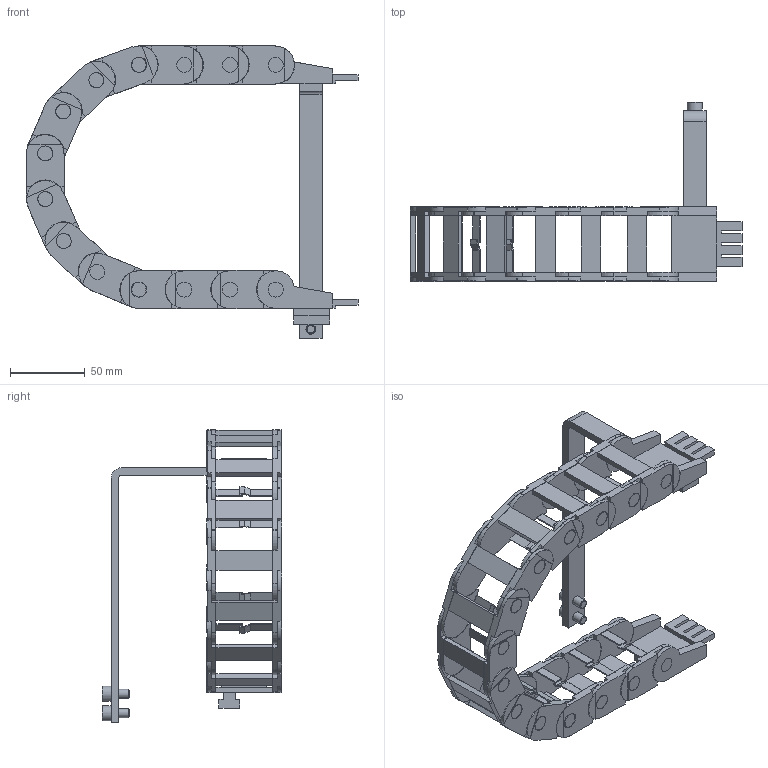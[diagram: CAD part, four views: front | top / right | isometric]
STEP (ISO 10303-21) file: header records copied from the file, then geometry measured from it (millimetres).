
FILE_DESCRIPTION( ( 'STEP AP214' ), '1' );
FILE_NAME( 'U:/Marketing/AvmDoc/LINMOT/CD_2010_06/3D STEP/Accessoires/8319420.step', '2010-06-10T09:20:13', ( ' ' ), ( ' ' ), 'XStep 1.0', ' ', ' ' );
FILE_SCHEMA( ( 'automotive_design' ) );
Length unit declared in the file: millimetre
Products named in the file (15): 1; 2; 3; 4; 5; 6; 7; 8; 9; 10; 11; 12; 13; 14; 15
Bounding box: 221.71 x 120 x 195.3 mm (x, y, z)
Volume: 185268.4 mm3; surface area: 134612.4 mm2
Topology: 15 solids, 15 shells, 1138 faces, 3207 edges, 2136 vertices
Faces by surface type: plane 863, cylinder 273, cone 2
Full cylindrical faces by diameter (mm): 6 x2, 6.5 x2, 10 x4
Entity records: 46061 total; most frequent: CARTESIAN_POINT 6474, ORIENTED_EDGE 6382, DIRECTION 6257, EDGE_CURVE 3191, LINE 2431, VECTOR 2431, VERTEX_POINT 2130, AXIS2_PLACEMENT_3D 1913
